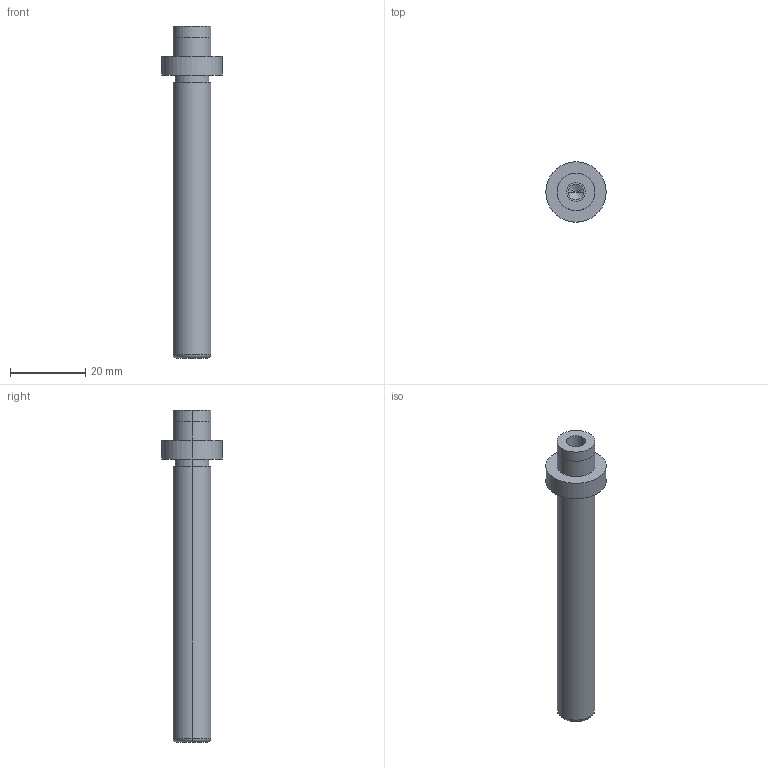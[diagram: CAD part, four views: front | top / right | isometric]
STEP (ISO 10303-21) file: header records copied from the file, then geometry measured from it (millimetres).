
FILE_DESCRIPTION(/* description */ (''),/* implementation_level */ '2;1');
FILE_NAME(/* name */ '3d_sgpr10-80_00288_r00.stp',/* time_stamp */ '2011-01-10T14:11:06+09:00',/* author */ ('MISUMI'),/* organization */ (''),/* preprocessor_version */ 'ST-DEVELOPER v11',/* originating_system */ 'UGS - NX 5.0',/* authorisation */ '');
FILE_SCHEMA (('CONFIG_CONTROL_DESIGN'));
Length unit declared in the file: millimetre
Products named in the file (1): 3d_sgpr10-80_00288_r00
Bounding box: 16 x 16 x 88 mm (x, y, z)
Volume: 7205 mm3; surface area: 3500.8 mm2
Topology: 1 solids, 1 shells, 24 faces, 48 edges, 29 vertices
Faces by surface type: cylinder 14, plane 6, cone 2, torus 2
Entity records: 706 total; most frequent: DIRECTION 126, CARTESIAN_POINT 100, ORIENTED_EDGE 92, AXIS2_PLACEMENT_3D 55, EDGE_CURVE 46, CIRCLE 30, EDGE_LOOP 29, VERTEX_POINT 29
